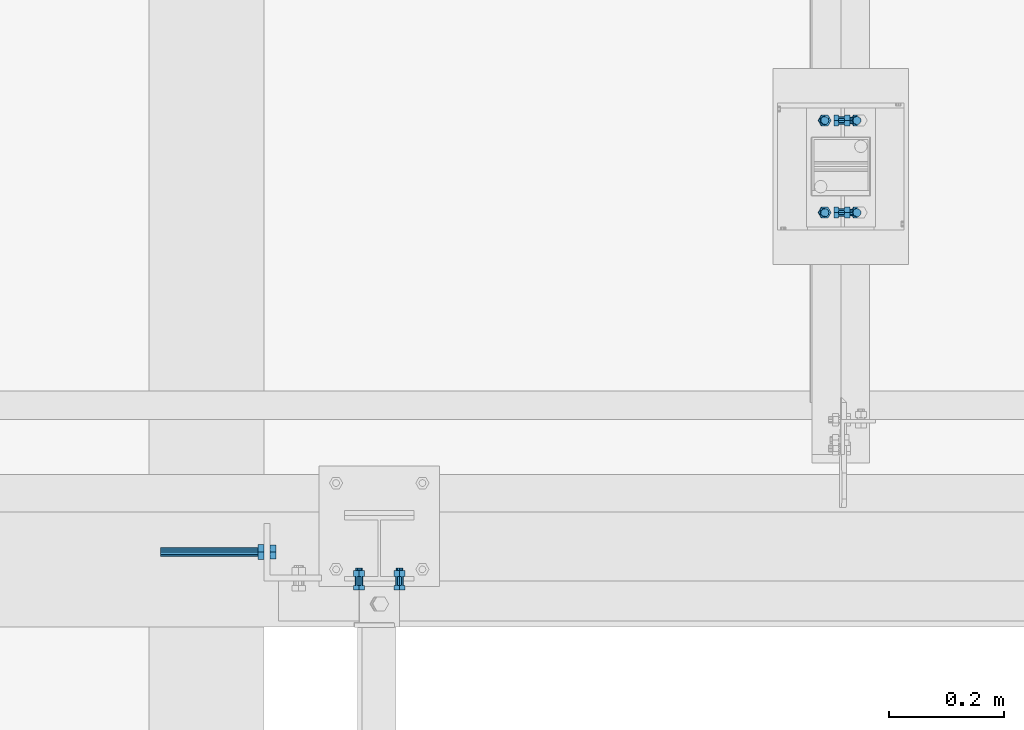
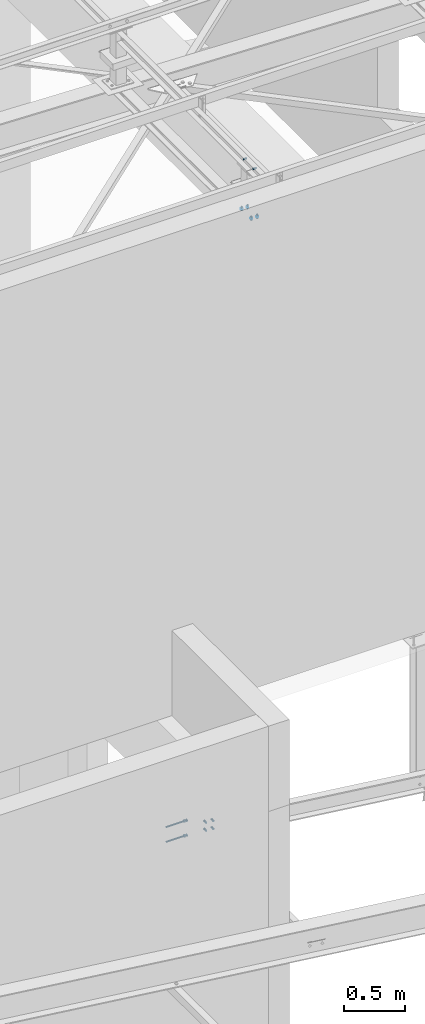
# One storey, part 228 of 3134: 6 mechanical fasteners, 5 elements without a shape of their own.
"""IFC2X3 building model written with IfcOpenShell, lengths in millimetres."""

import ifcopenshell
import ifcopenshell.guid

model = None  # the IFC model being written
_history = None  # IfcOwnerHistory: only IFC2X3 demands one
_inside = {}  # id of a spatial element -> (the spatial element, [elements in it])
_under = {}  # id of a project, library or spatial element -> (it, [spatial elements below it])
_declared = {}  # id of a project -> (the project, [libraries it declares])
_typed = {}  # id of a type object -> (the type object, [elements of that type])
_made_of = {}  # id of a material, layer set ... -> (it, [elements and type objects made of it])


def new_model(schema):
    """Start an empty IFC model of exactly this schema.

    Asked for "IFC4X3", IfcOpenShell would pick the latest addendum, in which some entities
    have other attributes; the version numbers below select the first issue.
    IFC2X3 requires an IfcOwnerHistory on every rooted entity: one is made here for all.
    """
    global model, _history
    if schema == "IFC4X3":
        model = ifcopenshell.file(schema_version=(4, 3, 0, 0))
    else:
        model = ifcopenshell.file(schema=schema)
    _inside.clear()
    _under.clear()
    _declared.clear()
    _typed.clear()
    _made_of.clear()
    _history = None
    if model.schema == "IFC2X3":
        org = make("IfcOrganization", Name="unknown")
        user = make(
            "IfcPersonAndOrganization",
            ThePerson=make("IfcPerson", FamilyName="unknown"),
            TheOrganization=org,
        )
        app = make(
            "IfcApplication",
            ApplicationDeveloper=org,
            Version="unknown",
            ApplicationFullName="unknown",
            ApplicationIdentifier="unknown",
        )
        _history = make(
            "IfcOwnerHistory",
            OwningUser=user,
            OwningApplication=app,
            ChangeAction="ADDED",
            CreationDate=0,
        )
    return model


def make(cls, **values):
    """One entity of the class cls with the attributes given. An attribute that is None is left unset."""
    return model.create_entity(
        cls, **{name: value for name, value in values.items() if value is not None}
    )


def rooted(cls, **values):
    """An entity with a GlobalId (a new one), such as an element, a storey or a relation."""
    return make(cls, GlobalId=ifcopenshell.guid.new(), OwnerHistory=_history, **values)


def si_unit(unit_type, name, prefix=None):
    """IfcSIUnit, for example si_unit("LENGTHUNIT", "METRE", prefix="MILLI")."""
    return make("IfcSIUnit", UnitType=unit_type, Prefix=prefix, Name=name)


def assignment(units):
    """IfcUnitAssignment: the units of a project."""
    return None if units is None else make("IfcUnitAssignment", Units=units)


def point(xyz):
    """IfcCartesianPoint."""
    return None if xyz is None else make("IfcCartesianPoint", Coordinates=xyz)


def direction(xyz):
    """IfcDirection."""
    return None if xyz is None else make("IfcDirection", DirectionRatios=xyz)


def frame(location, z_axis=None, x_axis=None):
    """IfcAxis2Placement3D, a coordinate frame: its origin and axes. An axis left out is left unset."""
    return make(
        "IfcAxis2Placement3D",
        Location=point(location),
        Axis=direction(z_axis),
        RefDirection=direction(x_axis),
    )


def origin_with_axes():
    """The frame at (0, 0, 0) with the z axis (0, 0, 1) and the x axis (1, 0, 0) written out."""
    return frame((0.0, 0.0, 0.0), z_axis=(0.0, 0.0, 1.0), x_axis=(1.0, 0.0, 0.0))


def place(relative_to, where):
    """IfcLocalPlacement: puts the frame where relative to a parent placement (None: the world)."""
    return make(
        "IfcLocalPlacement", PlacementRelTo=relative_to, RelativePlacement=where
    )


def context(
    kind, dimensions, precision=None, world=None, true_north=None, identifier=None
):
    """IfcGeometricRepresentationContext, for example the 3D "Model" context."""
    return make(
        "IfcGeometricRepresentationContext",
        ContextIdentifier=identifier,
        ContextType=kind,
        CoordinateSpaceDimension=dimensions,
        Precision=precision,
        WorldCoordinateSystem=world,
        TrueNorth=true_north,
    )


def subcontext(parent, identifier, kind, view, scale=None):
    """IfcGeometricRepresentationSubContext, for example "Body" below "Model"."""
    return make(
        "IfcGeometricRepresentationSubContext",
        ContextIdentifier=identifier,
        ContextType=kind,
        ParentContext=parent,
        TargetScale=scale,
        TargetView=view,
    )


def project(units=None, contexts=None):
    """IfcProject with its units and contexts."""
    return rooted(
        "IfcProject",
        Name="project",
        RepresentationContexts=contexts,
        UnitsInContext=assignment(units),
    )


def spatial(cls, under=None, at=None, **own):
    """A site, building, storey or space (cls), placed at a placement, below another one or the project."""
    s = rooted(cls, ObjectPlacement=at, **own)
    if under is not None:
        _under.setdefault(under.id(), (under, []))[1].append(s)
    return s


def faces_of(points, faces, orient=None, outer=None):
    """IfcFace entities. A face is a list of loops; a loop is a list of indices into points, from 0.

    orient and outer hold one flag for each loop. By default every Orientation is true, the
    first loop of a face is its IfcFaceOuterBound and the others are IfcFaceBound.
    """
    made = []
    for i, loops in enumerate(faces):
        bounds = []
        for j, loop in enumerate(loops):
            is_outer = j == 0 if outer is None else outer[i][j]
            bounds.append(
                make(
                    "IfcFaceOuterBound" if is_outer else "IfcFaceBound",
                    Bound=make("IfcPolyLoop", Polygon=[points[k] for k in loop]),
                    Orientation=True if orient is None else orient[i][j],
                )
            )
        made.append(make("IfcFace", Bounds=bounds))
    return made


def faceted_brep(points, faces, orient=None, outer=None, voids=None):
    """IfcFacetedBrep: a solid bounded by flat faces; with voids (closed shells), ...WithVoids."""
    shared = [point(p) for p in points]
    hull = make("IfcClosedShell", CfsFaces=faces_of(shared, faces, orient, outer))
    if voids is None:
        return make("IfcFacetedBrep", Outer=hull)
    return make(
        "IfcFacetedBrepWithVoids",
        Outer=hull,
        Voids=[
            make(cls, CfsFaces=faces_of(shared, fs, o, b)) for cls, fs, o, b in voids
        ],
    )


def shape(context_of_items, identifier, shape_type, items):
    """IfcShapeRepresentation: the items that make up one representation, for example the "Body"."""
    return make(
        "IfcShapeRepresentation",
        ContextOfItems=context_of_items,
        RepresentationIdentifier=identifier,
        RepresentationType=shape_type,
        Items=items,
    )


def source(mapping_origin, context_of_items, identifier, shape_type, items):
    """IfcRepresentationMap: a shape defined once, which mapped items show again and again."""
    return make(
        "IfcRepresentationMap",
        MappingOrigin=mapping_origin,
        MappedRepresentation=shape(context_of_items, identifier, shape_type, items),
    )


def transform(
    local_origin,
    x_axis=None,
    y_axis=None,
    z_axis=None,
    scale=None,
    scale2=None,
    scale3=None,
    uniform=True,
):
    """IfcCartesianTransformationOperator3D, or its non-uniform kind. x_axis, y_axis, z_axis: its Axis1, 2, 3."""
    if uniform:
        return make(
            "IfcCartesianTransformationOperator3D",
            Axis1=direction(x_axis),
            Axis2=direction(y_axis),
            LocalOrigin=point(local_origin),
            Scale=scale,
            Axis3=direction(z_axis),
        )
    return make(
        "IfcCartesianTransformationOperator3DnonUniform",
        Axis1=direction(x_axis),
        Axis2=direction(y_axis),
        LocalOrigin=point(local_origin),
        Scale=scale,
        Axis3=direction(z_axis),
        Scale2=scale2,
        Scale3=scale3,
    )


def mapped(mapping_source, mapping_target):
    """IfcMappedItem: shows the shape of a source again, moved by a transform."""
    return make(
        "IfcMappedItem", MappingSource=mapping_source, MappingTarget=mapping_target
    )


def material(Name=None, Category=None):
    """IfcMaterial."""
    return make("IfcMaterial", Name=Name, Category=Category)


def made_of(thing, what):
    """Note that an element or type object is made of a material, layer set ...; save() writes the relation."""
    if what is not None:
        _made_of.setdefault(what.id(), (what, []))[1].append(thing)
    return thing


def type_object(cls, material=None, **own):
    """A type object (cls), such as IfcWallType, which elements share."""
    return made_of(rooted(cls, **own), material)


def element(
    cls,
    number,
    at=None,
    inside=None,
    cuts=None,
    type_object=None,
    material=None,
    context=None,
    identifier="Body",
    shape_type=None,
    held_by="IfcProductDefinitionShape",
    body=None,
    shapes=None,
    **own,
):
    """One element of the class cls, such as IfcWall. Its Tag is "e" and its number.

    at: its placement. inside: the storey or other place that contains it. cuts: it is an
    opening in that element (IfcRelVoidsElement). A single representation is given by context,
    identifier, shape_type and body (its items); several are given by shapes. held_by: the class
    of the entity that holds the representations. save() writes the other relations.
    """
    e = rooted(cls, Tag="e%d" % number, ObjectPlacement=at, **own)
    if body is not None:
        shapes = [shape(context, identifier, shape_type, body)]
    if shapes is not None:
        e.Representation = make(held_by, Representations=shapes)
    if inside is not None:
        _inside.setdefault(inside.id(), (inside, []))[1].append(e)
    if cuts is not None:
        rooted(
            "IfcRelVoidsElement", RelatingBuildingElement=cuts, RelatedOpeningElement=e
        )
    if type_object is not None:
        _typed.setdefault(type_object.id(), (type_object, []))[1].append(e)
    return made_of(e, material)


def aggregate(whole, parts):
    """IfcRelAggregates: a whole, such as a stair, and the parts it consists of."""
    return rooted("IfcRelAggregates", RelatingObject=whole, RelatedObjects=parts)


def save(model, path):
    """Write the relations noted so far, then the file.

    IfcRelAggregates (storeys below a building ...), IfcRelContainedInSpatialStructure (elements
    in a storey), IfcRelDefinesByType, IfcRelAssociatesMaterial and IfcRelDeclares: one each for
    every whole, place, type object, material and project.
    """
    for whole, parts in _under.values():
        aggregate(whole, parts)
    for where, things in _inside.values():
        rooted(
            "IfcRelContainedInSpatialStructure",
            RelatedElements=things,
            RelatingStructure=where,
        )
    for kind, things in _typed.values():
        rooted("IfcRelDefinesByType", RelatedObjects=things, RelatingType=kind)
    for what, things in _made_of.values():
        rooted("IfcRelAssociatesMaterial", RelatedObjects=things, RelatingMaterial=what)
    for by, libraries in _declared.values():
        rooted("IfcRelDeclares", RelatingContext=by, RelatedDefinitions=libraries)
    model.write(path)


model = new_model("IFC2X3")

# Units and contexts
model_context = context("Model", 3, precision=1e-05, world=origin_with_axes())
body_context = subcontext(model_context, "Body", "Model", "MODEL_VIEW")
ifc_project = project(units=[si_unit("LENGTHUNIT", "METRE", prefix="MILLI"), si_unit("AREAUNIT", "SQUARE_METRE"), si_unit("VOLUMEUNIT", "CUBIC_METRE"), si_unit("MASSUNIT", "GRAM", prefix="KILO"), si_unit("TIMEUNIT", "SECOND"), si_unit("PLANEANGLEUNIT", "RADIAN"), si_unit("SOLIDANGLEUNIT", "STERADIAN"), si_unit("THERMODYNAMICTEMPERATUREUNIT", "DEGREE_CELSIUS"), si_unit("LUMINOUSINTENSITYUNIT", "LUMEN")], contexts=[model_context])

# Site, building, storey
site_placement = place(None, origin_with_axes())
site = spatial("IfcSite", under=ifc_project, at=site_placement, CompositionType="ELEMENT")
building_placement = place(site_placement, origin_with_axes())
building = spatial("IfcBuilding", under=site, at=building_placement, Name="Undefined", CompositionType="ELEMENT")
storey_placement = place(building_placement, origin_with_axes())
storey = spatial("IfcBuildingStorey", under=building, at=storey_placement, Name="Undefined", CompositionType="ELEMENT", Elevation=0.0)

# Assembly, mechanical fasteners
assembly_1_placement = place(storey_placement, origin_with_axes())
assembly_1 = element("IfcElementAssembly", 1, at=assembly_1_placement, inside=storey, Name="HEA120", AssemblyPlace="NOTDEFINED", PredefinedType="RIGID_FRAME")
ifc_material_1 = material(Name="8.8")
mechanical_fastener_type = type_object("IfcMechanicalFastenerType", Name="Bolt assembly")
shared_shape_1 = source(origin_with_axes(), body_context, "Body", "Brep", [
    faceted_brep([(10.9696551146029, -16.0, 0.0), (5.48482755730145, -16.0, 9.5), (-5.48482755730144, -16.0, 9.5), (-10.9696551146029, -16.0, 1.34339530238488e-15), (-5.48482755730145, -16.0, -9.5), (5.48482755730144, -16.0, -9.50000000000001), (5.48482755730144, -8.0, -9.50000000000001), (-5.48482755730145, -8.0, -9.5), (-10.9696551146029, -8.0, 1.34339530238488e-15), (-5.48482755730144, -8.0, 9.5), (5.48482755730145, -8.0, 9.5), (10.9696551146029, -8.0, 0.0), (6.0, -8.0, 0.0), (5.19615242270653, -8.0, 3.00000000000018), (2.99999999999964, -8.0, 5.19615242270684), (-6.21801588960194e-13, -8.0, 6.0), (-3.00000000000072, -8.0, 5.19615242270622), (-5.19615242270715, -8.0, 2.9999999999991), (-6.0, -8.0, -1.24360317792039e-12), (-5.19615242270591, -8.0, -3.00000000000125), (-2.99999999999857, -8.0, -5.19615242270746), (1.85874342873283e-12, -8.0, -6.0), (3.00000000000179, -8.0, -5.1961524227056), (5.19615242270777, -8.0, -2.99999999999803), (5.19615242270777, 22.0, -2.99999999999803), (3.00000000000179, 22.0, -5.1961524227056), (1.85874342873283e-12, 22.0, -6.0), (-2.99999999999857, 22.0, -5.19615242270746), (-5.19615242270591, 22.0, -3.00000000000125), (-6.0, 22.0, -1.24360317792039e-12), (-5.19615242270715, 22.0, 2.9999999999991), (-3.00000000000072, 22.0, 5.19615242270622), (-6.21801588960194e-13, 22.0, 6.0), (2.99999999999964, 22.0, 5.19615242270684), (5.19615242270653, 22.0, 3.00000000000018), (6.0, 22.0, 0.0), (10.9696551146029, 8.0, 0.0), (5.48482755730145, 8.0, 9.5), (-5.48482755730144, 8.0, 9.5), (-10.9696551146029, 8.0, 1.34339530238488e-15), (-5.48482755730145, 8.0, -9.5), (5.48482755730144, 8.0, -9.50000000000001), (5.48482755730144, 18.0, -9.50000000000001), (-5.48482755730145, 18.0, -9.5), (-10.9696551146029, 18.0, 1.34339530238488e-15), (-5.48482755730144, 18.0, 9.5), (5.48482755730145, 18.0, 9.5), (10.9696551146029, 18.0, 0.0)], [[[0, 1, 2, 3, 4, 5]], [[6, 7, 8, 9, 10, 11]], [[0, 11, 10, 1]], [[1, 10, 9, 2]], [[2, 9, 8, 3]], [[3, 8, 7, 4]], [[4, 7, 6, 5]], [[5, 6, 11, 0]], [[12, 13, 14, 15, 16, 17, 18, 19, 20, 21, 22, 23]], [[24, 25, 26, 27, 28, 29, 30, 31, 32, 33, 34, 35]], [[12, 35, 34, 13]], [[13, 34, 33, 14]], [[14, 33, 32, 15]], [[15, 32, 31, 16]], [[16, 31, 30, 17]], [[17, 30, 29, 18]], [[18, 29, 28, 19]], [[19, 28, 27, 20]], [[20, 27, 26, 21]], [[21, 26, 25, 22]], [[22, 25, 24, 23]], [[23, 24, 35, 12]], [[36, 37, 38, 39, 40, 41]], [[42, 43, 44, 45, 46, 47]], [[36, 47, 46, 37]], [[37, 46, 45, 38]], [[38, 45, 44, 39]], [[39, 44, 43, 40]], [[40, 43, 42, 41]], [[41, 42, 47, 36]]]),
    faceted_brep([(7.0, -7.9, 0.0), (6.06217782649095, -7.9, 3.50000000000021), (3.49999999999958, -7.9, 6.06217782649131), (-7.25435187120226e-13, -7.9, 7.0), (-3.50000000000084, -7.9, 6.06217782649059), (-6.06217782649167, -7.9, 3.49999999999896), (-7.0, -7.9, -1.45087037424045e-12), (-6.06217782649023, -7.9, -3.50000000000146), (-3.49999999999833, -7.9, -6.06217782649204), (2.1685340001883e-12, -7.9, -7.0), (3.50000000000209, -7.9, -6.06217782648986), (6.0621778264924, -7.9, -3.4999999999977), (6.0621778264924, 0.0999999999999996, -3.4999999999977), (3.50000000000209, 0.0999999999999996, -6.06217782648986), (2.1685340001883e-12, 0.0999999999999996, -7.0), (-3.49999999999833, 0.0999999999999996, -6.06217782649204), (-6.06217782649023, 0.0999999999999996, -3.50000000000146), (-7.0, 0.0999999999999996, -1.45087037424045e-12), (-6.06217782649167, 0.0999999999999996, 3.49999999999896), (-3.50000000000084, 0.0999999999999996, 6.06217782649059), (-7.25435187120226e-13, 0.0999999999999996, 7.0), (3.49999999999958, 0.0999999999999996, 6.06217782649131), (6.06217782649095, 0.0999999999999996, 3.50000000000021), (7.0, 0.0999999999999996, 0.0), (7.0, -0.1, 0.0), (6.06217782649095, -0.1, 3.50000000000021), (3.49999999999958, -0.1, 6.06217782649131), (-7.25435187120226e-13, -0.1, 7.0), (-3.50000000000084, -0.1, 6.06217782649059), (-6.06217782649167, -0.1, 3.49999999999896), (-7.0, -0.1, -1.45087037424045e-12), (-6.06217782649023, -0.1, -3.50000000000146), (-3.49999999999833, -0.1, -6.06217782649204), (2.1685340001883e-12, -0.1, -7.0), (3.50000000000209, -0.1, -6.06217782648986), (6.0621778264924, -0.1, -3.4999999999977), (6.0621778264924, 8.0000000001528, -3.4999999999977), (3.50000000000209, 8.0000000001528, -6.06217782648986), (2.1685340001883e-12, 8.0000000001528, -7.0), (-3.49999999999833, 8.0000000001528, -6.06217782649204), (-6.06217782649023, 8.0000000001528, -3.50000000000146), (-7.0, 8.0000000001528, -1.45087037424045e-12), (-6.06217782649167, 8.0000000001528, 3.49999999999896), (-3.50000000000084, 8.0000000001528, 6.06217782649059), (-7.25435187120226e-13, 8.0000000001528, 7.0), (3.49999999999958, 8.0000000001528, 6.06217782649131), (6.06217782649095, 8.0000000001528, 3.50000000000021), (7.0, 8.0000000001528, 0.0)], [[[0, 1, 2, 3, 4, 5, 6, 7, 8, 9, 10, 11]], [[12, 13, 14, 15, 16, 17, 18, 19, 20, 21, 22, 23]], [[0, 23, 22, 1]], [[1, 22, 21, 2]], [[2, 21, 20, 3]], [[3, 20, 19, 4]], [[4, 19, 18, 5]], [[5, 18, 17, 6]], [[6, 17, 16, 7]], [[7, 16, 15, 8]], [[8, 15, 14, 9]], [[9, 14, 13, 10]], [[10, 13, 12, 11]], [[11, 12, 23, 0]], [[24, 25, 26, 27, 28, 29, 30, 31, 32, 33, 34, 35]], [[36, 37, 38, 39, 40, 41, 42, 43, 44, 45, 46, 47]], [[24, 47, 46, 25]], [[25, 46, 45, 26]], [[26, 45, 44, 27]], [[27, 44, 43, 28]], [[28, 43, 42, 29]], [[29, 42, 41, 30]], [[30, 41, 40, 31]], [[31, 40, 39, 32]], [[32, 39, 38, 33]], [[33, 38, 37, 34]], [[34, 37, 36, 35]], [[35, 36, 47, 24]]]),
])
mechanical_fastener_1_placement = place(assembly_1_placement, frame((28010.0, 49799.9999999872, 4894.09021810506), z_axis=(1.0, 0.0, 0.0), x_axis=(0.0, 0.0, -1.0)))
mechanical_fastener_1 = element("IfcMechanicalFastener", 2, at=mechanical_fastener_1_placement, type_object=mechanical_fastener_type, material=ifc_material_1, Name="Bolt assembly", NominalDiameter=12.0, NominalLength=30.0, context=body_context, shape_type="MappedRepresentation", body=[
    mapped(shared_shape_1, transform((0.0, 0.0, 0.0))),
    mapped(shared_shape_1, transform((80.5899963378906, 0.0, 0.0))),
])
mechanical_fastener_2_placement = place(assembly_1_placement, frame((28080.0, 49799.9999999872, 4885.55021810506), z_axis=(1.0, 0.0, 0.0), x_axis=(0.0, 0.0, -1.0)))
mechanical_fastener_2 = element("IfcMechanicalFastener", 3, at=mechanical_fastener_2_placement, type_object=mechanical_fastener_type, material=ifc_material_1, Name="Bolt assembly", NominalDiameter=12.0, NominalLength=30.0, context=body_context, shape_type="MappedRepresentation", body=[
    mapped(shared_shape_1, transform((0.0, 0.0, 0.0))),
    mapped(shared_shape_1, transform((80.5899963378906, 0.0, 0.0))),
])
aggregate(assembly_1, [mechanical_fastener_1, mechanical_fastener_2])

# Assembly, mechanical fastener
assembly_2_placement = place(storey_placement, origin_with_axes())
assembly_2 = element("IfcElementAssembly", 4, at=assembly_2_placement, inside=storey, AssemblyPlace="NOTDEFINED", PredefinedType="RIGID_FRAME")
ifc_material_2 = material(Name="HILTI-HAS")
shared_shape_2 = source(origin_with_axes(), body_context, "Body", "Brep", [
    faceted_brep([(13.856406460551, -20.56, 0.0), (6.92820323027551, -20.56, 12.0), (-6.92820323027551, -20.56, 12.0), (-13.856406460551, -20.56, 1.69692038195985e-15), (-6.92820323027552, -20.56, -12.0), (6.9282032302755, -20.56, -12.0), (6.9282032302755, -10.0, -12.0), (-6.92820323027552, -10.0, -12.0), (-13.856406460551, -10.0, 1.69692038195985e-15), (-6.92820323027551, -10.0, 12.0), (6.92820323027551, -10.0, 12.0), (13.856406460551, -10.0, 0.0), (8.0, -10.0, 0.0), (6.92820323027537, -10.0, 4.00000000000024), (3.99999999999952, -10.0, 6.92820323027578), (-8.29068785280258e-13, -10.0, 8.0), (-4.00000000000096, -10.0, 6.92820323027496), (-6.9282032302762, -10.0, 3.99999999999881), (-8.0, -10.0, -1.65813757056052e-12), (-6.92820323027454, -10.0, -4.00000000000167), (-3.99999999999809, -10.0, -6.92820323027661), (2.47832457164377e-12, -10.0, -8.0), (4.00000000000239, -10.0, -6.92820323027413), (6.92820323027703, -10.0, -3.99999999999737), (6.92820323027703, 180.0, -3.99999999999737), (4.00000000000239, 180.0, -6.92820323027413), (2.47832457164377e-12, 180.0, -8.0), (-3.99999999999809, 180.0, -6.92820323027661), (-6.92820323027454, 180.0, -4.00000000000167), (-8.0, 180.0, -1.65813757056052e-12), (-6.9282032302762, 180.0, 3.99999999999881), (-4.00000000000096, 180.0, 6.92820323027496), (-8.29068785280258e-13, 180.0, 8.0), (3.99999999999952, 180.0, 6.92820323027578), (6.92820323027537, 180.0, 4.00000000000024), (8.0, 180.0, 0.0), (15.3344231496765, 7.105427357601e-15, 0.0), (7.66721157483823, 7.105427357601e-15, 13.28), (-7.66721157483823, 7.105427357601e-15, 13.28), (-15.3344231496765, 7.105427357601e-15, 1.87792522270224e-15), (-7.66721157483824, 7.105427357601e-15, -13.28), (7.66721157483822, 7.105427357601e-15, -13.28), (7.66721157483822, 10.56, -13.28), (-7.66721157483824, 10.56, -13.28), (-15.3344231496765, 10.56, 1.87792522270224e-15), (-7.66721157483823, 10.56, 13.28), (7.66721157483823, 10.56, 13.28), (15.3344231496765, 10.56, 0.0)], [[[0, 1, 2, 3, 4, 5]], [[6, 7, 8, 9, 10, 11]], [[0, 11, 10, 1]], [[1, 10, 9, 2]], [[2, 9, 8, 3]], [[3, 8, 7, 4]], [[4, 7, 6, 5]], [[5, 6, 11, 0]], [[12, 13, 14, 15, 16, 17, 18, 19, 20, 21, 22, 23]], [[24, 25, 26, 27, 28, 29, 30, 31, 32, 33, 34, 35]], [[12, 35, 34, 13]], [[13, 34, 33, 14]], [[14, 33, 32, 15]], [[15, 32, 31, 16]], [[16, 31, 30, 17]], [[17, 30, 29, 18]], [[18, 29, 28, 19]], [[19, 28, 27, 20]], [[20, 27, 26, 21]], [[21, 26, 25, 22]], [[22, 25, 24, 23]], [[23, 24, 35, 12]], [[36, 37, 38, 39, 40, 41]], [[42, 43, 44, 45, 46, 47]], [[36, 47, 46, 37]], [[37, 46, 45, 38]], [[38, 45, 44, 39]], [[39, 44, 43, 40]], [[40, 43, 42, 41]], [[41, 42, 47, 36]]]),
    faceted_brep([(9.0, -10.0, 0.0), (7.79422863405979, -10.0, 4.50000000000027), (4.49999999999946, -10.0, 7.79422863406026), (-9.3270238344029e-13, -10.0, 9.0), (-4.50000000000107, -10.0, 7.79422863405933), (-7.79422863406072, -10.0, 4.49999999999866), (-9.0, -10.0, -1.86540476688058e-12), (-7.79422863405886, -10.0, -4.50000000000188), (-4.49999999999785, -10.0, -7.79422863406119), (2.78811514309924e-12, -10.0, -9.0), (4.50000000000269, -10.0, -7.7942286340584), (7.79422863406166, -10.0, -4.49999999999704), (7.79422863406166, 0.100000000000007, -4.49999999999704), (4.50000000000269, 0.100000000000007, -7.7942286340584), (2.78811514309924e-12, 0.100000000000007, -9.0), (-4.49999999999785, 0.100000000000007, -7.79422863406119), (-7.79422863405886, 0.100000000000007, -4.50000000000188), (-9.0, 0.100000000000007, -1.86540476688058e-12), (-7.79422863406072, 0.100000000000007, 4.49999999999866), (-4.50000000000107, 0.100000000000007, 7.79422863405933), (-9.3270238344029e-13, 0.100000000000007, 9.0), (4.49999999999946, 0.100000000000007, 7.79422863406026), (7.79422863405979, 0.100000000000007, 4.50000000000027), (9.0, 0.100000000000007, 0.0)], [[[0, 1, 2, 3, 4, 5, 6, 7, 8, 9, 10, 11]], [[12, 13, 14, 15, 16, 17, 18, 19, 20, 21, 22, 23]], [[0, 23, 22, 1]], [[1, 22, 21, 2]], [[2, 21, 20, 3]], [[3, 20, 19, 4]], [[4, 19, 18, 5]], [[5, 18, 17, 6]], [[6, 17, 16, 7]], [[7, 16, 15, 8]], [[8, 15, 14, 9]], [[9, 14, 13, 10]], [[10, 13, 12, 11]], [[11, 12, 23, 0]]]),
])
mechanical_fastener_3_placement = place(assembly_2_placement, frame((27845.0, 49850.0, 4931.56591409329), z_axis=(0.0, 1.0, 0.0), x_axis=(0.0, 0.0, -1.0)))
mechanical_fastener_3 = element("IfcMechanicalFastener", 5, at=mechanical_fastener_3_placement, type_object=mechanical_fastener_type, material=ifc_material_2, Name="Bolt assembly", NominalDiameter=16.0, NominalLength=190.0, context=body_context, shape_type="MappedRepresentation", body=[
    mapped(shared_shape_2, transform((0.0, 0.0, 0.0))),
    mapped(shared_shape_2, transform((150.0, 0.0, 0.0))),
])
aggregate(assembly_2, [mechanical_fastener_3])

assembly_3_placement = place(storey_placement, origin_with_axes())
assembly_3 = element("IfcElementAssembly", 6, at=assembly_3_placement, inside=storey, AssemblyPlace="NOTDEFINED", PredefinedType="RIGID_FRAME")
shared_shape_3 = source(origin_with_axes(), body_context, "Body", "Brep", [
    faceted_brep([(7.0, 13.0000253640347, 0.0), (6.06217782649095, 13.0000253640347, 3.50000000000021), (3.49999999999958, 13.0000253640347, 6.06217782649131), (-7.25435187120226e-13, 13.0000253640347, 7.0), (-3.50000000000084, 13.0000253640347, 6.06217782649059), (-6.06217782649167, 13.0000253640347, 3.49999999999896), (-7.0, 13.0000253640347, -1.45087037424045e-12), (-6.06217782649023, 13.0000253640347, -3.50000000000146), (-3.49999999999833, 13.0000253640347, -6.06217782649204), (2.1685340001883e-12, 13.0000253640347, -7.0), (3.50000000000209, 13.0000253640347, -6.06217782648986), (6.0621778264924, 13.0000253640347, -3.4999999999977), (6.0621778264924, 15.0999999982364, -3.4999999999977), (3.50000000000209, 15.0999999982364, -6.06217782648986), (2.1685340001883e-12, 15.0999999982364, -7.0), (-3.49999999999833, 15.0999999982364, -6.06217782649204), (-6.06217782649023, 15.0999999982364, -3.50000000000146), (-7.0, 15.0999999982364, -1.45087037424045e-12), (-6.06217782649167, 15.0999999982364, 3.49999999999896), (-3.50000000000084, 15.0999999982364, 6.06217782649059), (-7.25435187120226e-13, 15.0999999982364, 7.0), (3.49999999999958, 15.0999999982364, 6.06217782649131), (6.06217782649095, 15.0999999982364, 3.50000000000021), (7.0, 15.0999999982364, 0.0)], [[[0, 1, 2, 3, 4, 5, 6, 7, 8, 9, 10, 11]], [[12, 13, 14, 15, 16, 17, 18, 19, 20, 21, 22, 23]], [[0, 23, 22, 1]], [[1, 22, 21, 2]], [[2, 21, 20, 3]], [[3, 20, 19, 4]], [[4, 19, 18, 5]], [[5, 18, 17, 6]], [[6, 17, 16, 7]], [[7, 16, 15, 8]], [[8, 15, 14, 9]], [[9, 14, 13, 10]], [[10, 13, 12, 11]], [[11, 12, 23, 0]]]),
])
mechanical_fastener_4_placement = place(assembly_3_placement, frame((28818.360203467, 50520.0016352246, 10292.7149309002), z_axis=(0.0, -1.0, 0.0), x_axis=(0.999519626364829, 0.0, -0.030992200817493)))
mechanical_fastener_4 = element("IfcMechanicalFastener", 7, at=mechanical_fastener_4_placement, type_object=mechanical_fastener_type, material=ifc_material_1, Name="Bolt assembly", NominalDiameter=12.0, NominalLength=2.0, context=body_context, shape_type="MappedRepresentation", body=[
    mapped(shared_shape_3, transform((0.0, 5.3114490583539e-10, 79.9999999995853))),
    mapped(shared_shape_3, transform((55.9999999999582, 4.54747350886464e-13, 80.0))),
    mapped(shared_shape_3, transform((0.0, -5.32963895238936e-10, -79.9999999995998))),
    mapped(shared_shape_3, transform((55.9999999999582, 4.54747350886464e-13, -80.0))),
])
aggregate(assembly_3, [mechanical_fastener_4])

assembly_4_placement = place(storey_placement, origin_with_axes())
assembly_4 = element("IfcElementAssembly", 8, at=assembly_4_placement, inside=storey, AssemblyPlace="NOTDEFINED", PredefinedType="RIGID_FRAME")
shared_shape_4 = source(origin_with_axes(), body_context, "Body", "Brep", [
    faceted_brep([(10.9696551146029, -12.0, 0.0), (5.48482755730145, -12.0, 9.5), (-5.48482755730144, -12.0, 9.5), (-10.9696551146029, -12.0, 1.34339530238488e-15), (-5.48482755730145, -12.0, -9.5), (5.48482755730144, -12.0, -9.50000000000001), (5.48482755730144, -4.0, -9.50000000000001), (-5.48482755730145, -4.0, -9.5), (-10.9696551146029, -4.0, 1.34339530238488e-15), (-5.48482755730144, -4.0, 9.5), (5.48482755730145, -4.0, 9.5), (10.9696551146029, -4.0, 0.0), (6.0, -4.0, 0.0), (5.19615242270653, -4.0, 3.00000000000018), (2.99999999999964, -4.0, 5.19615242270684), (-6.21801588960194e-13, -4.0, 6.0), (-3.00000000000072, -4.0, 5.19615242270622), (-5.19615242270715, -4.0, 2.9999999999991), (-6.0, -4.0, -1.24360317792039e-12), (-5.19615242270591, -4.0, -3.00000000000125), (-2.99999999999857, -4.0, -5.19615242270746), (1.85874342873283e-12, -4.0, -6.0), (3.00000000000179, -4.0, -5.1961524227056), (5.19615242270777, -4.0, -2.99999999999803), (5.19615242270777, 21.0, -2.99999999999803), (3.00000000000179, 21.0, -5.1961524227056), (1.85874342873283e-12, 21.0, -6.0), (-2.99999999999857, 21.0, -5.19615242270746), (-5.19615242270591, 21.0, -3.00000000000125), (-6.0, 21.0, -1.24360317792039e-12), (-5.19615242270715, 21.0, 2.9999999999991), (-3.00000000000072, 21.0, 5.19615242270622), (-6.21801588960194e-13, 21.0, 6.0), (2.99999999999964, 21.0, 5.19615242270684), (5.19615242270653, 21.0, 3.00000000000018), (6.0, 21.0, 0.0), (10.9696551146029, 6.00000000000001, 0.0), (5.48482755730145, 6.00000000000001, 9.5), (-5.48482755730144, 6.00000000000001, 9.5), (-10.9696551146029, 6.00000000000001, 1.34339530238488e-15), (-5.48482755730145, 6.00000000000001, -9.5), (5.48482755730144, 6.00000000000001, -9.50000000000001), (5.48482755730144, 16.0, -9.50000000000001), (-5.48482755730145, 16.0, -9.5), (-10.9696551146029, 16.0, 1.34339530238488e-15), (-5.48482755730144, 16.0, 9.5), (5.48482755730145, 16.0, 9.5), (10.9696551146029, 16.0, 0.0)], [[[0, 1, 2, 3, 4, 5]], [[6, 7, 8, 9, 10, 11]], [[0, 11, 10, 1]], [[1, 10, 9, 2]], [[2, 9, 8, 3]], [[3, 8, 7, 4]], [[4, 7, 6, 5]], [[5, 6, 11, 0]], [[12, 13, 14, 15, 16, 17, 18, 19, 20, 21, 22, 23]], [[24, 25, 26, 27, 28, 29, 30, 31, 32, 33, 34, 35]], [[12, 35, 34, 13]], [[13, 34, 33, 14]], [[14, 33, 32, 15]], [[15, 32, 31, 16]], [[16, 31, 30, 17]], [[17, 30, 29, 18]], [[18, 29, 28, 19]], [[19, 28, 27, 20]], [[20, 27, 26, 21]], [[21, 26, 25, 22]], [[22, 25, 24, 23]], [[23, 24, 35, 12]], [[36, 37, 38, 39, 40, 41]], [[42, 43, 44, 45, 46, 47]], [[36, 47, 46, 37]], [[37, 46, 45, 38]], [[38, 45, 44, 39]], [[39, 44, 43, 40]], [[40, 43, 42, 41]], [[41, 42, 47, 36]]]),
    faceted_brep([(7.0, -3.9, 0.0), (6.06217782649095, -3.9, 3.50000000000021), (3.49999999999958, -3.9, 6.06217782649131), (-7.25435187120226e-13, -3.9, 7.0), (-3.50000000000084, -3.9, 6.06217782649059), (-6.06217782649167, -3.9, 3.49999999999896), (-7.0, -3.9, -1.45087037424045e-12), (-6.06217782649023, -3.9, -3.50000000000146), (-3.49999999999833, -3.9, -6.06217782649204), (2.1685340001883e-12, -3.9, -7.0), (3.50000000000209, -3.9, -6.06217782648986), (6.0621778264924, -3.9, -3.4999999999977), (6.0621778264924, 0.0999999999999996, -3.4999999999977), (3.50000000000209, 0.0999999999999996, -6.06217782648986), (2.1685340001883e-12, 0.0999999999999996, -7.0), (-3.49999999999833, 0.0999999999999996, -6.06217782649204), (-6.06217782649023, 0.0999999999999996, -3.50000000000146), (-7.0, 0.0999999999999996, -1.45087037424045e-12), (-6.06217782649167, 0.0999999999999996, 3.49999999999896), (-3.50000000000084, 0.0999999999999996, 6.06217782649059), (-7.25435187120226e-13, 0.0999999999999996, 7.0), (3.49999999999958, 0.0999999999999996, 6.06217782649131), (6.06217782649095, 0.0999999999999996, 3.50000000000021), (7.0, 0.0999999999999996, 0.0), (7.0, -0.1, 0.0), (6.06217782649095, -0.1, 3.50000000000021), (3.49999999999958, -0.1, 6.06217782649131), (-7.25435187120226e-13, -0.1, 7.0), (-3.50000000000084, -0.1, 6.06217782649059), (-6.06217782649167, -0.1, 3.49999999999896), (-7.0, -0.1, -1.45087037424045e-12), (-6.06217782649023, -0.1, -3.50000000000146), (-3.49999999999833, -0.1, -6.06217782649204), (2.1685340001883e-12, -0.1, -7.0), (3.50000000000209, -0.1, -6.06217782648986), (6.0621778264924, -0.1, -3.4999999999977), (6.0621778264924, 6.00000000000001, -3.4999999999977), (3.50000000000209, 6.00000000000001, -6.06217782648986), (2.1685340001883e-12, 6.00000000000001, -7.0), (-3.49999999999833, 6.00000000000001, -6.06217782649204), (-6.06217782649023, 6.00000000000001, -3.50000000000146), (-7.0, 6.00000000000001, -1.45087037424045e-12), (-6.06217782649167, 6.00000000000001, 3.49999999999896), (-3.50000000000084, 6.00000000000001, 6.06217782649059), (-7.25435187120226e-13, 6.00000000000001, 7.0), (3.49999999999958, 6.00000000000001, 6.06217782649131), (6.06217782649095, 6.00000000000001, 3.50000000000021), (7.0, 6.00000000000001, 0.0)], [[[0, 1, 2, 3, 4, 5, 6, 7, 8, 9, 10, 11]], [[12, 13, 14, 15, 16, 17, 18, 19, 20, 21, 22, 23]], [[0, 23, 22, 1]], [[1, 22, 21, 2]], [[2, 21, 20, 3]], [[3, 20, 19, 4]], [[4, 19, 18, 5]], [[5, 18, 17, 6]], [[6, 17, 16, 7]], [[7, 16, 15, 8]], [[8, 15, 14, 9]], [[9, 14, 13, 10]], [[10, 13, 12, 11]], [[11, 12, 23, 0]], [[24, 25, 26, 27, 28, 29, 30, 31, 32, 33, 34, 35]], [[36, 37, 38, 39, 40, 41, 42, 43, 44, 45, 46, 47]], [[24, 47, 46, 25]], [[25, 46, 45, 26]], [[26, 45, 44, 27]], [[27, 44, 43, 28]], [[28, 43, 42, 29]], [[29, 42, 41, 30]], [[30, 41, 40, 31]], [[31, 40, 39, 32]], [[32, 39, 38, 33]], [[33, 38, 37, 34]], [[34, 37, 36, 35]], [[35, 36, 47, 24]]]),
])
mechanical_fastener_5_placement = place(assembly_4_placement, frame((28847.0, 50520.0, 10800.0), z_axis=(0.0, -1.0, 0.0), x_axis=(0.0, 0.0, -1.0)))
mechanical_fastener_5 = element("IfcMechanicalFastener", 9, at=mechanical_fastener_5_placement, type_object=mechanical_fastener_type, material=ifc_material_1, Name="Bolt assembly", NominalDiameter=12.0, NominalLength=25.0, context=body_context, shape_type="MappedRepresentation", body=[
    mapped(shared_shape_4, transform((0.0, -5.32963895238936e-10, -79.9999999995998))),
    mapped(shared_shape_4, transform((0.0, 5.3114490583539e-10, 79.9999999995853))),
])
aggregate(assembly_4, [mechanical_fastener_5])

assembly_5_placement = place(storey_placement, origin_with_axes())
assembly_5 = element("IfcElementAssembly", 10, at=assembly_5_placement, inside=storey, AssemblyPlace="NOTDEFINED", PredefinedType="RIGID_FRAME")
shared_shape_5 = source(origin_with_axes(), body_context, "Body", "Brep", [
    faceted_brep([(10.9696551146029, -2.99057758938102, 0.0), (5.48482755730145, -2.99057758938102, 9.5), (-5.48482755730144, -2.99057758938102, 9.5), (-10.9696551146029, -2.99057758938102, 1.34339530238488e-15), (-5.48482755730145, -2.99057758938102, -9.5), (5.48482755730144, -2.99057758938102, -9.50000000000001), (5.48482755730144, 5.00942241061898, -9.50000000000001), (-5.48482755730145, 5.00942241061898, -9.5), (-10.9696551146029, 5.00942241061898, 1.34339530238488e-15), (-5.48482755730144, 5.00942241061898, 9.5), (5.48482755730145, 5.00942241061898, 9.5), (10.9696551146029, 5.00942241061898, 0.0), (6.0, 5.00942241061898, 0.0), (5.19615242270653, 5.00942241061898, 3.00000000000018), (2.99999999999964, 5.00942241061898, 5.19615242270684), (-6.21801588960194e-13, 5.00942241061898, 6.0), (-3.00000000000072, 5.00942241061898, 5.19615242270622), (-5.19615242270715, 5.00942241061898, 2.9999999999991), (-6.0, 5.00942241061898, -1.24360317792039e-12), (-5.19615242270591, 5.00942241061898, -3.00000000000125), (-2.99999999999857, 5.00942241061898, -5.19615242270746), (1.85874342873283e-12, 5.00942241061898, -6.0), (3.00000000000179, 5.00942241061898, -5.1961524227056), (5.19615242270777, 5.00942241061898, -2.99999999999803), (5.19615242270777, 40.009422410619, -2.99999999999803), (3.00000000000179, 40.009422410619, -5.1961524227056), (1.85874342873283e-12, 40.009422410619, -6.0), (-2.99999999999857, 40.009422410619, -5.19615242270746), (-5.19615242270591, 40.009422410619, -3.00000000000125), (-6.0, 40.009422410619, -1.24360317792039e-12), (-5.19615242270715, 40.009422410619, 2.9999999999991), (-3.00000000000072, 40.009422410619, 5.19615242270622), (-6.21801588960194e-13, 40.009422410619, 6.0), (2.99999999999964, 40.009422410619, 5.19615242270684), (5.19615242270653, 40.009422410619, 3.00000000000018), (6.0, 40.009422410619, 0.0), (10.9696551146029, 23.0139082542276, 0.0), (5.48482755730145, 23.0139082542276, 9.5), (-5.48482755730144, 23.0139082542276, 9.5), (-10.9696551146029, 23.0139082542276, 1.34339530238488e-15), (-5.48482755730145, 23.0139082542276, -9.5), (5.48482755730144, 23.0139082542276, -9.50000000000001), (5.48482755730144, 33.0139082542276, -9.50000000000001), (-5.48482755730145, 33.0139082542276, -9.5), (-10.9696551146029, 33.0139082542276, 1.34339530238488e-15), (-5.48482755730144, 33.0139082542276, 9.5), (5.48482755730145, 33.0139082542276, 9.5), (10.9696551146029, 33.0139082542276, 0.0)], [[[0, 1, 2, 3, 4, 5]], [[6, 7, 8, 9, 10, 11]], [[0, 11, 10, 1]], [[1, 10, 9, 2]], [[2, 9, 8, 3]], [[3, 8, 7, 4]], [[4, 7, 6, 5]], [[5, 6, 11, 0]], [[12, 13, 14, 15, 16, 17, 18, 19, 20, 21, 22, 23]], [[24, 25, 26, 27, 28, 29, 30, 31, 32, 33, 34, 35]], [[12, 35, 34, 13]], [[13, 34, 33, 14]], [[14, 33, 32, 15]], [[15, 32, 31, 16]], [[16, 31, 30, 17]], [[17, 30, 29, 18]], [[18, 29, 28, 19]], [[19, 28, 27, 20]], [[20, 27, 26, 21]], [[21, 26, 25, 22]], [[22, 25, 24, 23]], [[23, 24, 35, 12]], [[36, 37, 38, 39, 40, 41]], [[42, 43, 44, 45, 46, 47]], [[36, 47, 46, 37]], [[37, 46, 45, 38]], [[38, 45, 44, 39]], [[39, 44, 43, 40]], [[40, 43, 42, 41]], [[41, 42, 47, 36]]]),
    faceted_brep([(7.0, 5.10942241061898, 0.0), (6.06217782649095, 5.10942241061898, 3.50000000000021), (3.49999999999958, 5.10942241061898, 6.06217782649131), (-7.25435187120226e-13, 5.10942241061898, 7.0), (-3.50000000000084, 5.10942241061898, 6.06217782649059), (-6.06217782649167, 5.10942241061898, 3.49999999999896), (-7.0, 5.10942241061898, -1.45087037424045e-12), (-6.06217782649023, 5.10942241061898, -3.50000000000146), (-3.49999999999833, 5.10942241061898, -6.06217782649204), (2.1685340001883e-12, 5.10942241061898, -7.0), (3.50000000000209, 5.10942241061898, -6.06217782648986), (6.0621778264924, 5.10942241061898, -3.4999999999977), (6.0621778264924, 13.1094502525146, -3.4999999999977), (3.50000000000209, 13.1094502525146, -6.06217782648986), (2.1685340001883e-12, 13.1094502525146, -7.0), (-3.49999999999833, 13.1094502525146, -6.06217782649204), (-6.06217782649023, 13.1094502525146, -3.50000000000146), (-7.0, 13.1094502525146, -1.45087037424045e-12), (-6.06217782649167, 13.1094502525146, 3.49999999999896), (-3.50000000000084, 13.1094502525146, 6.06217782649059), (-7.25435187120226e-13, 13.1094502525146, 7.0), (3.49999999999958, 13.1094502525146, 6.06217782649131), (6.06217782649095, 13.1094502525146, 3.50000000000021), (7.0, 13.1094502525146, 0.0), (7.0, 14.9139082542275, 0.0), (6.06217782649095, 14.9139082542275, 3.50000000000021), (3.49999999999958, 14.9139082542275, 6.06217782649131), (-7.25435187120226e-13, 14.9139082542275, 7.0), (-3.50000000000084, 14.9139082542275, 6.06217782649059), (-6.06217782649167, 14.9139082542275, 3.49999999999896), (-7.0, 14.9139082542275, -1.45087037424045e-12), (-6.06217782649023, 14.9139082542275, -3.50000000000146), (-3.49999999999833, 14.9139082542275, -6.06217782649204), (2.1685340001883e-12, 14.9139082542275, -7.0), (3.50000000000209, 14.9139082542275, -6.06217782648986), (6.0621778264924, 14.9139082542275, -3.4999999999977), (6.0621778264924, 23.0139082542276, -3.4999999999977), (3.50000000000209, 23.0139082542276, -6.06217782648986), (2.1685340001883e-12, 23.0139082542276, -7.0), (-3.49999999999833, 23.0139082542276, -6.06217782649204), (-6.06217782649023, 23.0139082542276, -3.50000000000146), (-7.0, 23.0139082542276, -1.45087037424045e-12), (-6.06217782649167, 23.0139082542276, 3.49999999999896), (-3.50000000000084, 23.0139082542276, 6.06217782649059), (-7.25435187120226e-13, 23.0139082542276, 7.0), (3.49999999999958, 23.0139082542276, 6.06217782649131), (6.06217782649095, 23.0139082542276, 3.50000000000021), (7.0, 23.0139082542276, 0.0)], [[[0, 1, 2, 3, 4, 5, 6, 7, 8, 9, 10, 11]], [[12, 13, 14, 15, 16, 17, 18, 19, 20, 21, 22, 23]], [[0, 23, 22, 1]], [[1, 22, 21, 2]], [[2, 21, 20, 3]], [[3, 20, 19, 4]], [[4, 19, 18, 5]], [[5, 18, 17, 6]], [[6, 17, 16, 7]], [[7, 16, 15, 8]], [[8, 15, 14, 9]], [[9, 14, 13, 10]], [[10, 13, 12, 11]], [[11, 12, 23, 0]], [[24, 25, 26, 27, 28, 29, 30, 31, 32, 33, 34, 35]], [[36, 37, 38, 39, 40, 41, 42, 43, 44, 45, 46, 47]], [[24, 47, 46, 25]], [[25, 46, 45, 26]], [[26, 45, 44, 27]], [[27, 44, 43, 28]], [[28, 43, 42, 29]], [[29, 42, 41, 30]], [[30, 41, 40, 31]], [[31, 40, 39, 32]], [[32, 39, 38, 33]], [[33, 38, 37, 34]], [[34, 37, 36, 35]], [[35, 36, 47, 24]]]),
])
mechanical_fastener_6_placement = place(assembly_5_placement, frame((28818.360203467, 50520.0016352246, 10292.7149309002), z_axis=(0.0, -1.0, 0.0), x_axis=(0.999519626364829, 0.0, -0.030992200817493)))
mechanical_fastener_6 = element("IfcMechanicalFastener", 11, at=mechanical_fastener_6_placement, type_object=mechanical_fastener_type, material=ifc_material_1, Name="Bolt assembly", NominalDiameter=12.0, NominalLength=35.0, context=body_context, shape_type="MappedRepresentation", body=[
    mapped(shared_shape_5, transform((0.0, -5.32963895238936e-10, -79.9999999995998))),
    mapped(shared_shape_5, transform((55.9999999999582, 4.54747350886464e-13, -80.0))),
    mapped(shared_shape_5, transform((0.0, 5.3114490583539e-10, 79.9999999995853))),
    mapped(shared_shape_5, transform((55.9999999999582, 4.54747350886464e-13, 80.0))),
])
aggregate(assembly_5, [mechanical_fastener_6])

save(model, "model.ifc")
